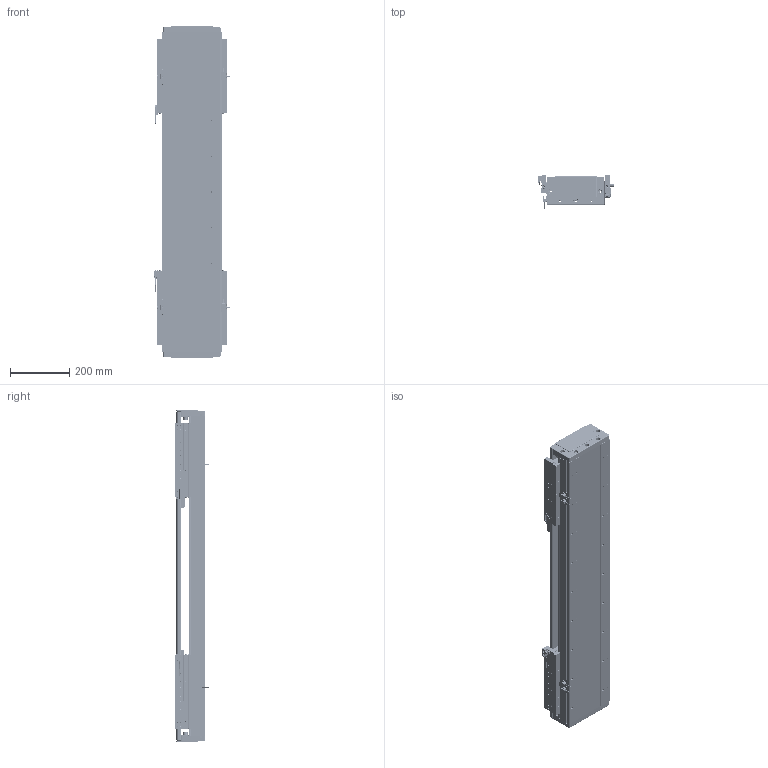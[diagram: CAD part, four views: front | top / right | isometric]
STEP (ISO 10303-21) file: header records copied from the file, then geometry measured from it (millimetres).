
FILE_DESCRIPTION (( 'STEP AP203' ), '1' );
FILE_NAME ('DA-C195-2-C3-T500-C010-0.2 眻盄萇儂.STEP', '2025-08-14T02:24:22', ( '' ), ( '' ), 'SwSTEP 2.0', 'SolidWorks 2019', '' );
FILE_SCHEMA (( 'CONFIG_CONTROL_DESIGN' ));
Length unit declared in the file: millimetre
Products named in the file (16): 葩璃 DA95-GT-T-00; DA195-DG-H-00  端盖（压铸镂空版）; DKW168-HXJ-ZJ-00 笢潔滅袉砎蝶; PM-Y65嫖萇羲壽郪璃; MS200 棠掑喜S315-T240; DA95-HXJ-00 遣喳砎蝶; PM-T45ㄗ侂狟ㄘ; DA-C195-2-C3-T500-C010-0.2 眻盄萇儂; 66156-0001-003-00 裔啣; CU195-C3賑輸-俋楷; IU-CU195-L-00 菁釱(L1080); DKW-GYP-ZJ-00 笢潔嫖萇覜茼え; DA165-GYP-00 光电感应片(默认); IU-CU195-L 菁釱絳寢; LMT黍杅芛; DKW-KGZ-ZJ-00 中间光电开关支架
Assembly tree (28 placements, depth 3):
  DA-C195-2-C3-T500-C010-0.2 眻盄萇儂
    IU-CU195-L 菁釱絳寢
      IU-CU195-L-00 菁釱(L1080)
      葩璃 DA95-GT-T-00  x4
    LMT黍杅芛  x2
    MS200 棠掑喜S315-T240
    PM-T45ㄗ侂狟ㄘ  x4
    DA165-GYP-00 光电感应片(默认)  x2
    DA195-DG-H-00  端盖（压铸镂空版）  x2
    DA95-HXJ-00 遣喳砎蝶  x4
    PM-Y65嫖萇羲壽郪璃
    66156-0001-003-00 裔啣
    DKW168-HXJ-ZJ-00 笢潔滅袉砎蝶
    DKW-GYP-ZJ-00 笢潔嫖萇覜茼え
    DKW-KGZ-ZJ-00 中间光电开关支架
    CU195-C3賑輸-俋楷  x2
Bounding box: 258.2 x 115.6 x 1120 mm (x, y, z)
Volume: 9925750.2 mm3; surface area: 2696070.4 mm2
Topology: 146 solids, 218 shells, 7720 faces, 19456 edges, 11831 vertices
Faces by surface type: cylinder 3152, plane 2784, cone 914, bspline 718, torus 80, sphere 72
Entity records: 152545 total; most frequent: CARTESIAN_POINT 46294, ORIENTED_EDGE 22098, DIRECTION 21152, EDGE_CURVE 11049, AXIS2_PLACEMENT_3D 7707, VERTEX_POINT 6984, VECTOR 5738, LINE 5738
